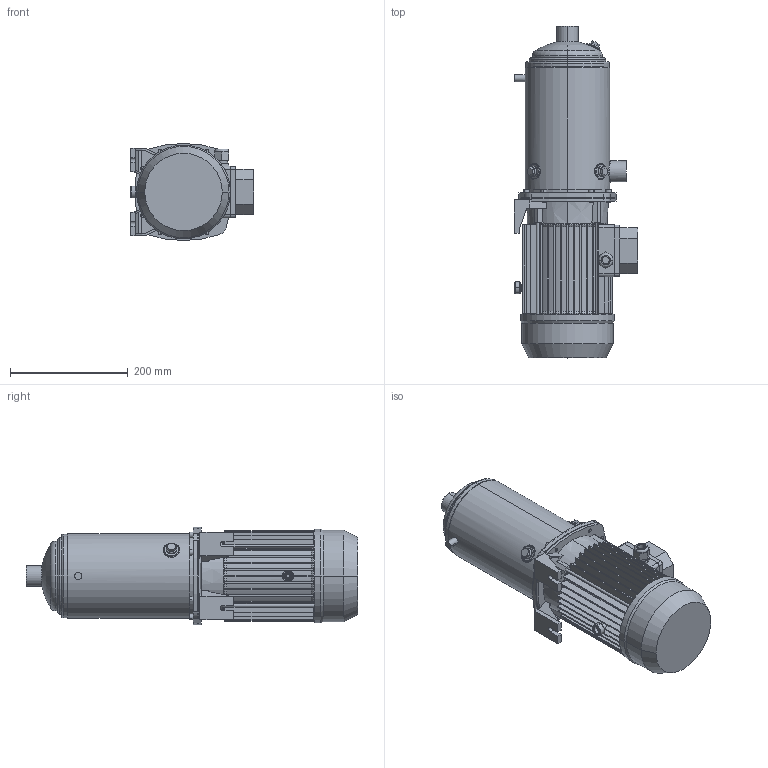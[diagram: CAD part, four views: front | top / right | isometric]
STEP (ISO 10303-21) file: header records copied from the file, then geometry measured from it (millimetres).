
FILE_DESCRIPTION((''),'2;1');
FILE_NAME('MATRIX_3-9T_1_5_IE3_ASM','2018-06-01T',('rosa'),('"Ebara Pumps Europe +39.444.706811"'),'PRO/ENGINEER BY PARAMETRIC TECHNOLOGY CORPORATION, 2012130','PRO/ENGINEER BY PARAMETRIC TECHNOLOGY CORPORATION, 2012130','');
FILE_SCHEMA(('AUTOMOTIVE_DESIGN { 1 0 10303 214 1 1 1 1 }'));
Length unit declared in the file: millimetre
Products named in the file (5): CORPO_POMPA_MATRIX_3-9; SUPPORTO_MATRIX_MEC_80; MEC_80X130_IE3; 72229; MATRIX_3-9T_1_5_IE3_ASM
Assembly tree (4 placements, depth 2):
  MATRIX_3-9T_1_5_IE3_ASM
    CORPO_POMPA_MATRIX_3-9
    SUPPORTO_MATRIX_MEC_80
    MEC_80X130_IE3
    72229
Bounding box: 209 x 563.8 x 165 mm (x, y, z)
Volume: 6924312.1 mm3; surface area: 620797.7 mm2
Topology: 4 solids, 4 shells, 721 faces, 1735 edges, 1071 vertices
Faces by surface type: plane 378, cylinder 188, cone 102, torus 37, bspline 14, sphere 2
Entity records: 28315 total; most frequent: CARTESIAN_POINT 5519, DIRECTION 3670, ORIENTED_EDGE 3470, EDGE_CURVE 1735, PRESENTATION_STYLE_ASSIGNMENT 1688, STYLED_ITEM 1688, CURVE_STYLE 1685, AXIS2_PLACEMENT_3D 1405
